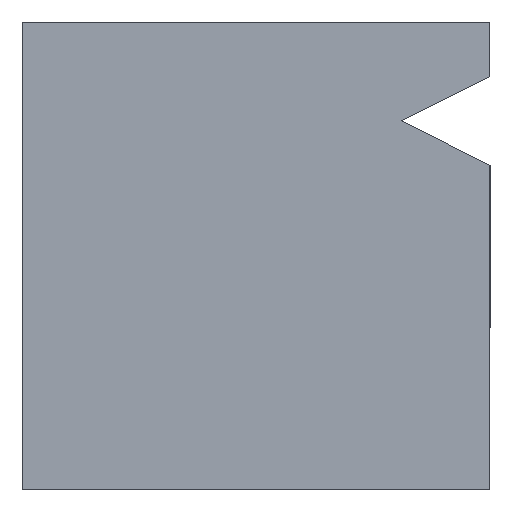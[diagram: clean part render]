
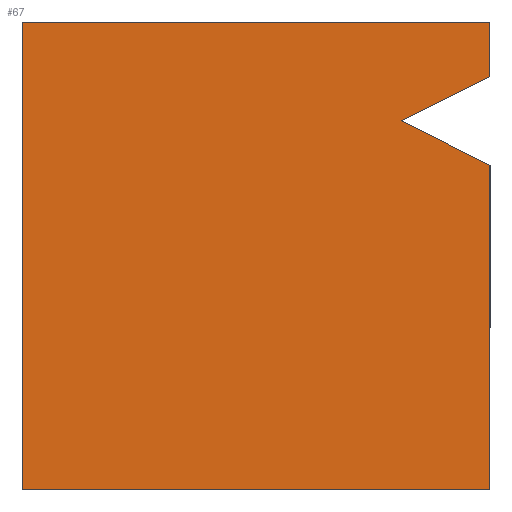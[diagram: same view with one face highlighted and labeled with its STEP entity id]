
A CAD part, left-side view. The second image highlights one B-rep face of the part: STEP entity #67.
In plain terms, the highlighted planar face has unit normal (-1, 0, 0).
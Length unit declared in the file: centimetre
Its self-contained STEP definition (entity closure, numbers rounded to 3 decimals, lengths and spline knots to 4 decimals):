
#4 = CARTESIAN_POINT ( 'NONE',  ( 0., 0., 0. ) ) ;
#8 = ORIENTED_EDGE ( 'NONE', *, *, #32, .T. ) ;
#10 = CARTESIAN_POINT ( 'NONE',  ( 0., 1000., 1000. ) ) ;
#11 = LINE ( 'NONE', #335, #451 ) ;
#18 = EDGE_CURVE ( 'NONE', #140, #242, #11, .T. ) ;
#32 = EDGE_CURVE ( 'NONE', #290, #326, #277, .T. ) ;
#34 = CARTESIAN_POINT ( 'NONE',  ( 0., 0., 1000. ) ) ;
#45 = CARTESIAN_POINT ( 'NONE',  ( 0., 0., 1000. ) ) ;
#46 = ORIENTED_EDGE ( 'NONE', *, *, #126, .F. ) ;
#47 = LINE ( 'NONE', #225, #307 ) ;
#50 = LINE ( 'NONE', #95, #384 ) ;
#53 = PLANE ( 'NONE',  #567 ) ;
#55 = CARTESIAN_POINT ( 'NONE',  ( 0., 0., 882.8385 ) ) ;
#57 = CARTESIAN_POINT ( 'NONE',  ( 0., 0., 694.3378 ) ) ;
#67 = ADVANCED_FACE ( 'NONE', ( #420 ), #53, .F. ) ;
#75 = VECTOR ( 'NONE', #179, 100. ) ;
#90 = VECTOR ( 'NONE', #234, 100. ) ;
#95 = CARTESIAN_POINT ( 'NONE',  ( 0., 1000., 1000. ) ) ;
#118 = EDGE_CURVE ( 'NONE', #429, #140, #50, .T. ) ;
#123 = ORIENTED_EDGE ( 'NONE', *, *, #18, .T. ) ;
#126 = EDGE_CURVE ( 'NONE', #290, #242, #461, .T. ) ;
#140 = VERTEX_POINT ( 'NONE', #368 ) ;
#153 = EDGE_LOOP ( 'NONE', ( #8, #532, #432, #259, #273, #123, #46 ) ) ;
#179 = DIRECTION ( 'NONE',  ( 0., 0., -1. ) ) ;
#219 = VERTEX_POINT ( 'NONE', #55 ) ;
#222 = EDGE_CURVE ( 'NONE', #326, #219, #47, .T. ) ;
#225 = CARTESIAN_POINT ( 'NONE',  ( 0., 189.5579, 788.5881 ) ) ;
#228 = CARTESIAN_POINT ( 'NONE',  ( 0., 0., 1000. ) ) ;
#231 = DIRECTION ( 'NONE',  ( 1., 0., 0. ) ) ;
#234 = DIRECTION ( 'NONE',  ( 0., -1., 0. ) ) ;
#236 = DIRECTION ( 'NONE',  ( 0., 0., -1. ) ) ;
#242 = VERTEX_POINT ( 'NONE', #4 ) ;
#259 = ORIENTED_EDGE ( 'NONE', *, *, #460, .F. ) ;
#260 = CARTESIAN_POINT ( 'NONE',  ( 0., 1000., 1000. ) ) ;
#273 = ORIENTED_EDGE ( 'NONE', *, *, #118, .T. ) ;
#277 = LINE ( 'NONE', #57, #574 ) ;
#284 = LINE ( 'NONE', #10, #90 ) ;
#290 = VERTEX_POINT ( 'NONE', #469 ) ;
#307 = VECTOR ( 'NONE', #425, 100. ) ;
#326 = VERTEX_POINT ( 'NONE', #563 ) ;
#335 = CARTESIAN_POINT ( 'NONE',  ( 0., 1000., 0. ) ) ;
#354 = VERTEX_POINT ( 'NONE', #34 ) ;
#368 = CARTESIAN_POINT ( 'NONE',  ( 0., 1000., 0. ) ) ;
#371 = DIRECTION ( 'NONE',  ( 0., 0., -1. ) ) ;
#376 = DIRECTION ( 'NONE',  ( 0., 0.895, 0.445 ) ) ;
#381 = DIRECTION ( 'NONE',  ( 0., 0., -1. ) ) ;
#384 = VECTOR ( 'NONE', #381, 100. ) ;
#420 = FACE_OUTER_BOUND ( 'NONE', #153, .T. ) ;
#424 = CARTESIAN_POINT ( 'NONE',  ( 0., 1000., 1000. ) ) ;
#425 = DIRECTION ( 'NONE',  ( 0., -0.895, 0.445 ) ) ;
#429 = VERTEX_POINT ( 'NONE', #260 ) ;
#432 = ORIENTED_EDGE ( 'NONE', *, *, #443, .F. ) ;
#443 = EDGE_CURVE ( 'NONE', #354, #219, #444, .T. ) ;
#444 = LINE ( 'NONE', #45, #75 ) ;
#445 = VECTOR ( 'NONE', #236, 100. ) ;
#451 = VECTOR ( 'NONE', #464, 100. ) ;
#460 = EDGE_CURVE ( 'NONE', #429, #354, #284, .T. ) ;
#461 = LINE ( 'NONE', #228, #445 ) ;
#464 = DIRECTION ( 'NONE',  ( 0., -1., 0. ) ) ;
#469 = CARTESIAN_POINT ( 'NONE',  ( 0., 0., 694.3378 ) ) ;
#532 = ORIENTED_EDGE ( 'NONE', *, *, #222, .T. ) ;
#563 = CARTESIAN_POINT ( 'NONE',  ( 0., 189.5579, 788.5881 ) ) ;
#567 = AXIS2_PLACEMENT_3D ( 'NONE', #424, #231, #371 ) ;
#574 = VECTOR ( 'NONE', #376, 100. ) ;
